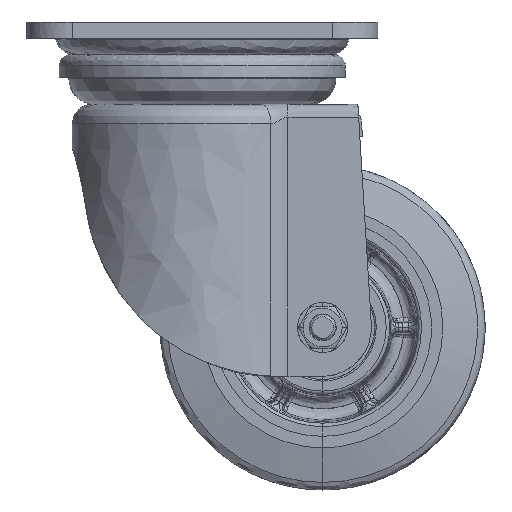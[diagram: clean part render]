
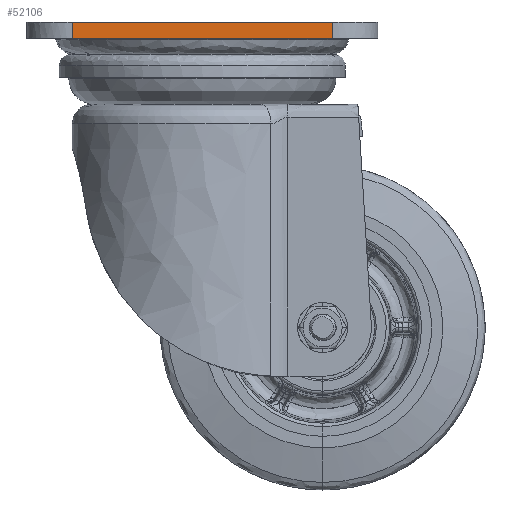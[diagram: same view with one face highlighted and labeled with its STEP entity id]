
A CAD part, left-side view. The second image highlights one B-rep face of the part: STEP entity #52106.
In plain terms, the highlighted planar face has unit normal (-1, 0, 0).
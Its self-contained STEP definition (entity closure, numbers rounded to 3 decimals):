
#19901 = CARTESIAN_POINT ( 'NONE',  ( -54., -40., 0. ) ) ;
#19932 = PLANE ( 'NONE',  #72178 ) ;
#19934 = DIRECTION ( 'NONE',  ( -1., 0., 0. ) ) ;
#19935 = DIRECTION ( 'NONE',  ( 0., 1., 0. ) ) ;
#50137 = EDGE_CURVE ( 'NONE', #59379, #59378, #73730, .T. ) ;
#50152 = EDGE_CURVE ( 'NONE', #59378, #59385, #73742, .T. ) ;
#50157 = EDGE_CURVE ( 'NONE', #59379, #59386, #73746, .T. ) ;
#50159 = EDGE_CURVE ( 'NONE', #59385, #59386, #73749, .T. ) ;
#52106 = ADVANCED_FACE ( 'NONE', ( #73792 ), #19932, .T. ) ;
#59378 = VERTEX_POINT ( 'NONE', #60189 ) ;
#59379 = VERTEX_POINT ( 'NONE', #60191 ) ;
#59385 = VERTEX_POINT ( 'NONE', #60201 ) ;
#59386 = VERTEX_POINT ( 'NONE', #60203 ) ;
#60189 = CARTESIAN_POINT ( 'NONE',  ( -54., 40., 0. ) ) ;
#60191 = CARTESIAN_POINT ( 'NONE',  ( -54., -40., 0. ) ) ;
#60201 = CARTESIAN_POINT ( 'NONE',  ( -54., 40., -5. ) ) ;
#60203 = CARTESIAN_POINT ( 'NONE',  ( -54., -40., -5. ) ) ;
#60748 = EDGE_LOOP ( 'NONE', ( #60885, #60888, #60890, #60892 ) ) ;
#60885 = ORIENTED_EDGE ( 'NONE', *, *, #50137, .T. ) ;
#60888 = ORIENTED_EDGE ( 'NONE', *, *, #50152, .T. ) ;
#60890 = ORIENTED_EDGE ( 'NONE', *, *, #50159, .T. ) ;
#60892 = ORIENTED_EDGE ( 'NONE', *, *, #50157, .F. ) ;
#72178 = AXIS2_PLACEMENT_3D ( 'NONE', #19901, #19934, #19935 ) ;
#73725 = VECTOR ( 'NONE', #80333, 1000. ) ;
#73730 = LINE ( 'NONE', #80325, #73725 ) ;
#73741 = VECTOR ( 'NONE', #80382, 1000. ) ;
#73742 = LINE ( 'NONE', #80361, #73745 ) ;
#73745 = VECTOR ( 'NONE', #80374, 1000. ) ;
#73746 = LINE ( 'NONE', #80381, #73741 ) ;
#73749 = LINE ( 'NONE', #80383, #73750 ) ;
#73750 = VECTOR ( 'NONE', #80384, 1000. ) ;
#73792 = FACE_OUTER_BOUND ( 'NONE', #60748, .T. ) ;
#80325 = CARTESIAN_POINT ( 'NONE',  ( -54., -40., 0. ) ) ;
#80333 = DIRECTION ( 'NONE',  ( 0., 1., 0. ) ) ;
#80361 = CARTESIAN_POINT ( 'NONE',  ( -54., 40., -2.5 ) ) ;
#80374 = DIRECTION ( 'NONE',  ( 0., 0., -1. ) ) ;
#80381 = CARTESIAN_POINT ( 'NONE',  ( -54., -40., -2.5 ) ) ;
#80382 = DIRECTION ( 'NONE',  ( 0., 0., -1. ) ) ;
#80383 = CARTESIAN_POINT ( 'NONE',  ( -54., -40., -5. ) ) ;
#80384 = DIRECTION ( 'NONE',  ( 0., -1., 0. ) ) ;
